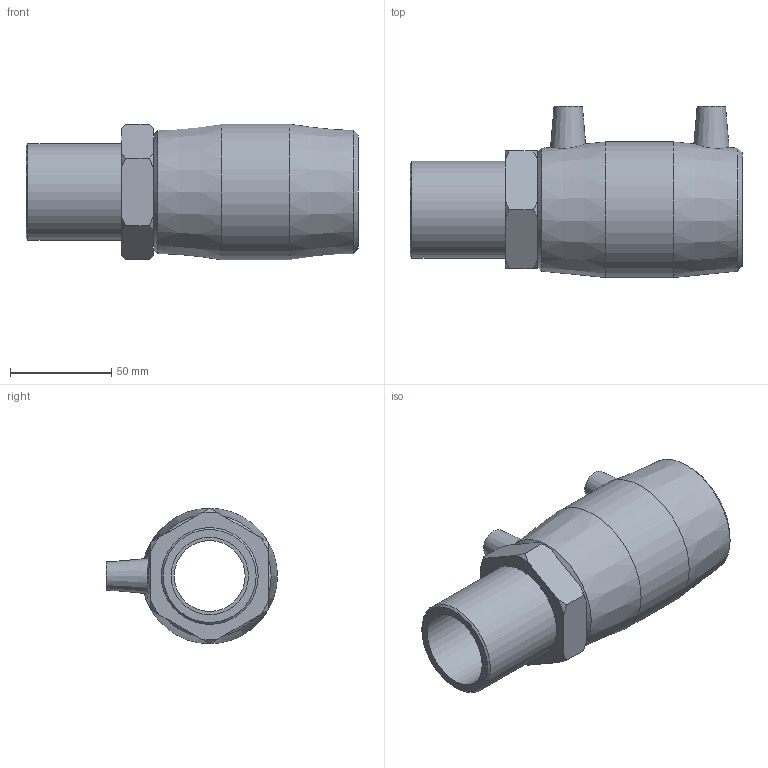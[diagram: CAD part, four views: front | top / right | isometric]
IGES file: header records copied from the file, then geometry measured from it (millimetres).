
Global section: file name: 492104050015N.ipt; native system: Autodesk Inventor 2015; preprocessor: unknown; author: KIM; date: 20200202.122319; units: millimetre
Bounding box: 164 x 84.5 x 67 mm (x, y, z)
Volume: 249865.7 mm3; surface area: 62497.7 mm2
Topology: 1 solids, 2 shells, 54 faces, 129 edges, 88 vertices
Faces by surface type: plane 21, cone 19, revolution 8, cylinder 6
Full cylindrical faces by diameter (mm): 4 x2, 47.803 x1, 50 x2, 67 x1
